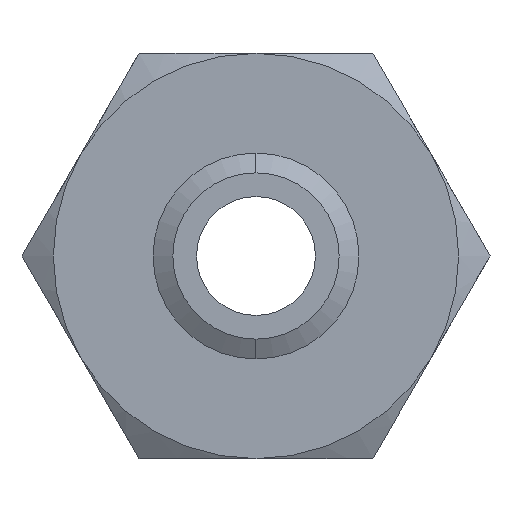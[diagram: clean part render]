
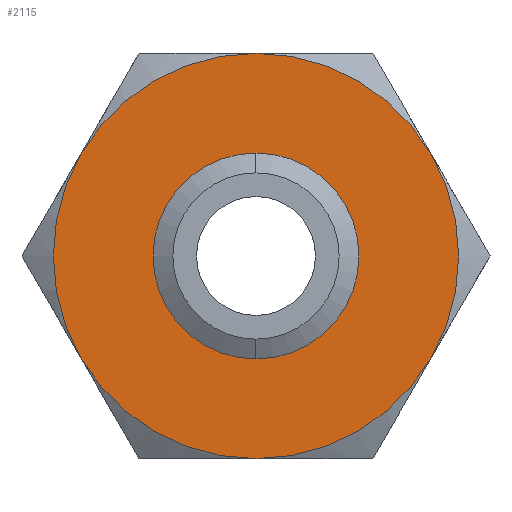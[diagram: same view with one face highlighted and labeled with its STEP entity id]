
A CAD part, front view. The second image highlights one B-rep face of the part: STEP entity #2115.
In plain terms, the highlighted planar face has unit normal (0, -1, 0).
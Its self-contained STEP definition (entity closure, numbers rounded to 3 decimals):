
#57 = ORIENTED_EDGE ( 'NONE', *, *, #154, .F. ) ;
#59 = ORIENTED_EDGE ( 'NONE', *, *, #2083, .F. ) ;
#154 = EDGE_CURVE ( 'NONE', #2065, #2082, #841, .T. ) ;
#175 = ORIENTED_EDGE ( 'NONE', *, *, #2188, .F. ) ;
#419 = ORIENTED_EDGE ( 'NONE', *, *, #2192, .F. ) ;
#465 = VERTEX_POINT ( 'NONE', #1455 ) ;
#837 = DIRECTION ( 'NONE',  ( 0., 0., -1. ) ) ;
#838 = DIRECTION ( 'NONE',  ( 0., -1., 0. ) ) ;
#839 = CARTESIAN_POINT ( 'NONE',  ( 0., 0., 0. ) ) ;
#840 = AXIS2_PLACEMENT_3D ( 'NONE', #839, #838, #837 ) ;
#841 = CIRCLE ( 'NONE', #840, 15.387 ) ;
#1455 = CARTESIAN_POINT ( 'NONE',  ( -32.476, 0., -18.75 ) ) ;
#1639 = DIRECTION ( 'NONE',  ( 0., 0., 1. ) ) ;
#1640 = DIRECTION ( 'NONE',  ( 0., 1., 0. ) ) ;
#1641 = CARTESIAN_POINT ( 'NONE',  ( 0., 0., 0. ) ) ;
#1642 = AXIS2_PLACEMENT_3D ( 'NONE', #1641, #1640, #1639 ) ;
#1643 = CIRCLE ( 'NONE', #1642, 37.5 ) ;
#1645 = CARTESIAN_POINT ( 'NONE',  ( -32.476, 0., 18.75 ) ) ;
#1651 = DIRECTION ( 'NONE',  ( 0., 0., 1. ) ) ;
#1652 = DIRECTION ( 'NONE',  ( 0., 1., 0. ) ) ;
#1653 = CARTESIAN_POINT ( 'NONE',  ( 0., 0., 0. ) ) ;
#1654 = AXIS2_PLACEMENT_3D ( 'NONE', #1653, #1652, #1651 ) ;
#1655 = CIRCLE ( 'NONE', #1654, 37.5 ) ;
#1656 = DIRECTION ( 'NONE',  ( 0., 0., 1. ) ) ;
#1657 = DIRECTION ( 'NONE',  ( 0., 1., 0. ) ) ;
#1658 = CARTESIAN_POINT ( 'NONE',  ( 0., 0., 0. ) ) ;
#1659 = AXIS2_PLACEMENT_3D ( 'NONE', #1658, #1657, #1656 ) ;
#1660 = CIRCLE ( 'NONE', #1659, 37.5 ) ;
#1661 = CARTESIAN_POINT ( 'NONE',  ( 32.476, 0., 18.75 ) ) ;
#1662 = CARTESIAN_POINT ( 'NONE',  ( 0., 0., 15.387 ) ) ;
#1667 = CARTESIAN_POINT ( 'NONE',  ( 0., 0., 37.5 ) ) ;
#1680 = DIRECTION ( 'NONE',  ( 0., 0., -1. ) ) ;
#1681 = DIRECTION ( 'NONE',  ( 0., -1., 0. ) ) ;
#1682 = CARTESIAN_POINT ( 'NONE',  ( 0., 0., 0. ) ) ;
#1683 = AXIS2_PLACEMENT_3D ( 'NONE', #1682, #1681, #1680 ) ;
#1684 = CIRCLE ( 'NONE', #1683, 15.387 ) ;
#1688 = CARTESIAN_POINT ( 'NONE',  ( 0., 0., -15.387 ) ) ;
#1754 = DIRECTION ( 'NONE',  ( 0., 0., 1. ) ) ;
#1755 = DIRECTION ( 'NONE',  ( 0., 1., 0. ) ) ;
#1756 = CARTESIAN_POINT ( 'NONE',  ( 21.651, 0., -37.5 ) ) ;
#1757 = AXIS2_PLACEMENT_3D ( 'NONE', #1756, #1755, #1754 ) ;
#1758 = PLANE ( 'NONE',  #1757 ) ;
#1759 = FACE_BOUND ( 'NONE', #2185, .T. ) ;
#1760 = FACE_OUTER_BOUND ( 'NONE', #2112, .T. ) ;
#1857 = DIRECTION ( 'NONE',  ( 0., 0., 1. ) ) ;
#1858 = DIRECTION ( 'NONE',  ( 0., 1., 0. ) ) ;
#1859 = CARTESIAN_POINT ( 'NONE',  ( 0., 0., 0. ) ) ;
#1860 = AXIS2_PLACEMENT_3D ( 'NONE', #1859, #1858, #1857 ) ;
#1861 = CIRCLE ( 'NONE', #1860, 37.5 ) ;
#1869 = CARTESIAN_POINT ( 'NONE',  ( 32.476, 0., -18.75 ) ) ;
#1903 = DIRECTION ( 'NONE',  ( 0., 0., 1. ) ) ;
#1904 = DIRECTION ( 'NONE',  ( 0., 1., 0. ) ) ;
#1905 = CARTESIAN_POINT ( 'NONE',  ( 0., 0., 0. ) ) ;
#1906 = AXIS2_PLACEMENT_3D ( 'NONE', #1905, #1904, #1903 ) ;
#1907 = CIRCLE ( 'NONE', #1906, 37.5 ) ;
#1908 = DIRECTION ( 'NONE',  ( 0., 0., 1. ) ) ;
#1909 = DIRECTION ( 'NONE',  ( 0., 1., 0. ) ) ;
#1910 = CARTESIAN_POINT ( 'NONE',  ( 0., 0., 0. ) ) ;
#1911 = AXIS2_PLACEMENT_3D ( 'NONE', #1910, #1909, #1908 ) ;
#1912 = CIRCLE ( 'NONE', #1911, 37.5 ) ;
#1913 = CARTESIAN_POINT ( 'NONE',  ( 0., 0., -37.5 ) ) ;
#2061 = VERTEX_POINT ( 'NONE', #1667 ) ;
#2062 = ORIENTED_EDGE ( 'NONE', *, *, #2074, .F. ) ;
#2065 = VERTEX_POINT ( 'NONE', #1662 ) ;
#2066 = EDGE_CURVE ( 'NONE', #465, #2073, #1660, .T. ) ;
#2067 = ORIENTED_EDGE ( 'NONE', *, *, #2066, .F. ) ;
#2069 = VERTEX_POINT ( 'NONE', #1661 ) ;
#2070 = EDGE_CURVE ( 'NONE', #2073, #2061, #1655, .T. ) ;
#2072 = ORIENTED_EDGE ( 'NONE', *, *, #2070, .F. ) ;
#2073 = VERTEX_POINT ( 'NONE', #1645 ) ;
#2074 = EDGE_CURVE ( 'NONE', #2061, #2069, #1643, .T. ) ;
#2082 = VERTEX_POINT ( 'NONE', #1688 ) ;
#2083 = EDGE_CURVE ( 'NONE', #2082, #2065, #1684, .T. ) ;
#2112 = EDGE_LOOP ( 'NONE', ( #2062, #2072, #2067, #419, #2190, #175 ) ) ;
#2115 = ADVANCED_FACE ( 'NONE', ( #1760, #1759 ), #1758, .F. ) ;
#2183 = VERTEX_POINT ( 'NONE', #1869 ) ;
#2185 = EDGE_LOOP ( 'NONE', ( #59, #57 ) ) ;
#2186 = EDGE_CURVE ( 'NONE', #2183, #2189, #1861, .T. ) ;
#2188 = EDGE_CURVE ( 'NONE', #2069, #2183, #1912, .T. ) ;
#2189 = VERTEX_POINT ( 'NONE', #1913 ) ;
#2190 = ORIENTED_EDGE ( 'NONE', *, *, #2186, .F. ) ;
#2192 = EDGE_CURVE ( 'NONE', #2189, #465, #1907, .T. ) ;
